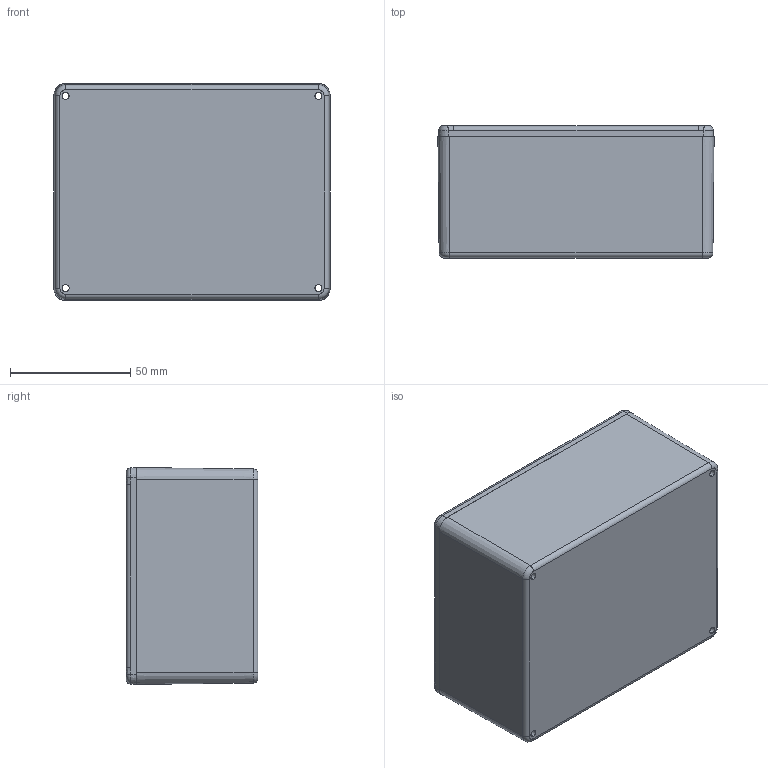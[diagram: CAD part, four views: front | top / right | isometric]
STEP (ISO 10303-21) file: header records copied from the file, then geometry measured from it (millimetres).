
FILE_DESCRIPTION (( 'STEP AP203' ), '1' );
FILE_NAME ('SE-406-0-0.STEP', '2021-03-29T06:22:05', ( '' ), ( '' ), 'SwSTEP 2.0', 'SolidWorks 2021', '' );
FILE_SCHEMA (( 'CONFIG_CONTROL_DESIGN' ));
Length unit declared in the file: millimetre
Products named in the file (3): SE-406-P-1; SE-406-P-2; SE-406-0-0
Assembly tree (2 placements, depth 2):
  SE-406-0-0
    SE-406-P-2
    SE-406-P-1
Bounding box: 114.7 x 54.7 x 90 mm (x, y, z)
Volume: 84183.9 mm3; surface area: 83985.4 mm2
Topology: 2 solids, 2 shells, 184 faces, 486 edges, 308 vertices
Faces by surface type: cone 56, plane 54, cylinder 42, torus 20, bspline 12
Entity records: 6595 total; most frequent: CARTESIAN_POINT 1579, DIRECTION 1072, ORIENTED_EDGE 972, EDGE_CURVE 486, AXIS2_PLACEMENT_3D 437, VERTEX_POINT 308, CIRCLE 260, EDGE_LOOP 202
